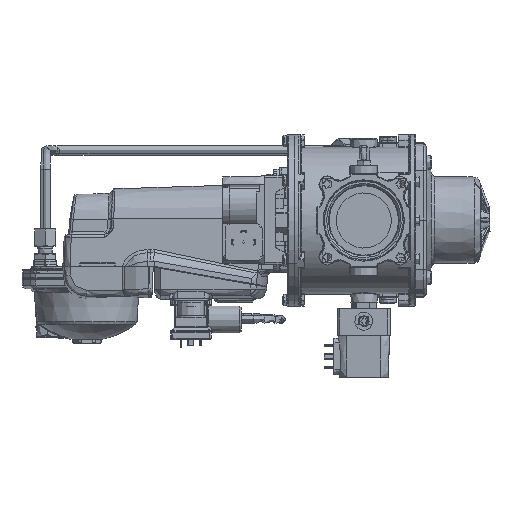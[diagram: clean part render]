
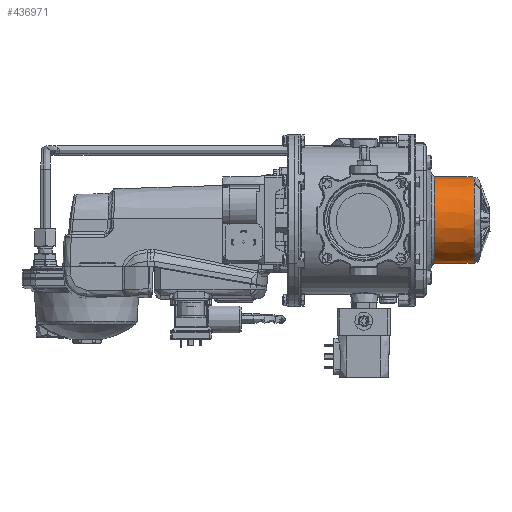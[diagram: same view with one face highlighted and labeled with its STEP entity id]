
A CAD part, left-side view. The second image highlights one B-rep face of the part: STEP entity #436971.
In plain terms, the highlighted conical face has half-angle 1 degrees and reference radius 35.655 mm.
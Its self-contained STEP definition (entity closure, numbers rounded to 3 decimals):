
#30873 = DIRECTION ( 'NONE',  ( 0., 0., -1. ) ) ;
#40681 = VERTEX_POINT ( 'NONE', #147257 ) ;
#63372 = CARTESIAN_POINT ( 'NONE',  ( 0., 0., -15.456 ) ) ;
#65626 = DIRECTION ( 'NONE',  ( 0., 1., 0. ) ) ;
#76085 = CIRCLE ( 'NONE', #194509, 35.655 ) ;
#90720 = AXIS2_PLACEMENT_3D ( 'NONE', #428479, #293841, #361122 ) ;
#112798 = EDGE_LOOP ( 'NONE', ( #192179 ) ) ;
#119201 = CIRCLE ( 'NONE', #437473, 35.086 ) ;
#127778 = CONICAL_SURFACE ( 'NONE', #90720, 35.655, 0.017 ) ;
#133103 = EDGE_CURVE ( 'NONE', #40681, #40681, #119201, .T. ) ;
#133621 = ORIENTED_EDGE ( 'NONE', *, *, #367658, .T. ) ;
#147257 = CARTESIAN_POINT ( 'NONE',  ( 0., 35.086, -48.087 ) ) ;
#184962 = CARTESIAN_POINT ( 'NONE',  ( 0., 35.655, -15.456 ) ) ;
#192179 = ORIENTED_EDGE ( 'NONE', *, *, #133103, .T. ) ;
#194509 = AXIS2_PLACEMENT_3D ( 'NONE', #63372, #30873, #65626 ) ;
#215174 = FACE_BOUND ( 'NONE', #112798, .T. ) ;
#219700 = FACE_OUTER_BOUND ( 'NONE', #366230, .T. ) ;
#293841 = DIRECTION ( 'NONE',  ( 0., 0., 1. ) ) ;
#361122 = DIRECTION ( 'NONE',  ( 1., 0., 0. ) ) ;
#366230 = EDGE_LOOP ( 'NONE', ( #133621 ) ) ;
#367658 = EDGE_CURVE ( 'NONE', #428447, #428447, #76085, .T. ) ;
#381993 = DIRECTION ( 'NONE',  ( 0., 0., 1. ) ) ;
#386516 = CARTESIAN_POINT ( 'NONE',  ( 0., 0., -48.087 ) ) ;
#428447 = VERTEX_POINT ( 'NONE', #184962 ) ;
#428479 = CARTESIAN_POINT ( 'NONE',  ( 0., 0., -15.456 ) ) ;
#436971 = ADVANCED_FACE ( 'NONE', ( #219700, #215174 ), #127778, .T. ) ;
#437473 = AXIS2_PLACEMENT_3D ( 'NONE', #386516, #381993, #453915 ) ;
#453915 = DIRECTION ( 'NONE',  ( 0., 1., 0. ) ) ;
